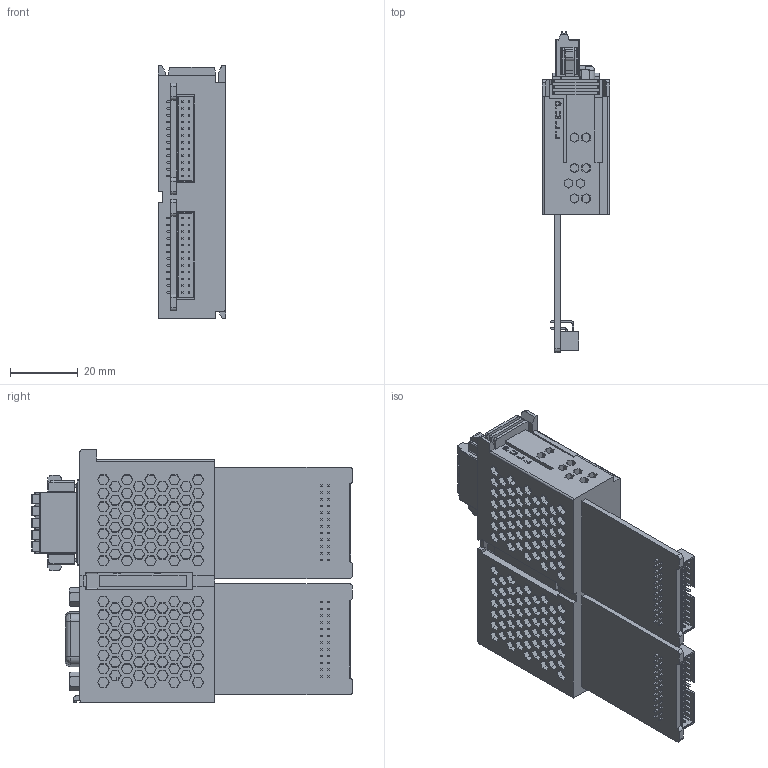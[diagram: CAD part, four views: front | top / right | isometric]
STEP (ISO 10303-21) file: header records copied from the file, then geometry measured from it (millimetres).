
FILE_DESCRIPTION((''),'2;1');
FILE_NAME('MPLC-MA-IO-COVER','2023-12-29T14:59:24',('Jacky Chang'),(''),'CREO PARAMETRIC BY PTC INC, 2021284','CREO PARAMETRIC BY PTC INC, 2021284','');
FILE_SCHEMA(('CONFIG_CONTROL_DESIGN','SHAPE_APPEARANCE_LAYERS_GROUPS'));
Products named in the file (1): MPLC-MA-IO-COVER
Bounding box: 19.9 x 95.1 x 75 mm (x, y, z)
Volume: 60250.1 mm3; surface area: 26627.2 mm2
Topology: 1 solids, 1 shells, 4963 faces, 12706 edges, 8168 vertices
Faces by surface type: plane 4218, cylinder 395, bspline 119, cone 86, extrusion 85, revolution 36, torus 20, sphere 4
Entity records: 224442 total; most frequent: CARTESIAN_POINT 33538, ORIENTED_EDGE 25396, DIRECTION 22790, PRESENTATION_STYLE_ASSIGNMENT 15488, STYLED_ITEM 12771, CURVE_STYLE 12770, EDGE_CURVE 12698, VECTOR 11434
